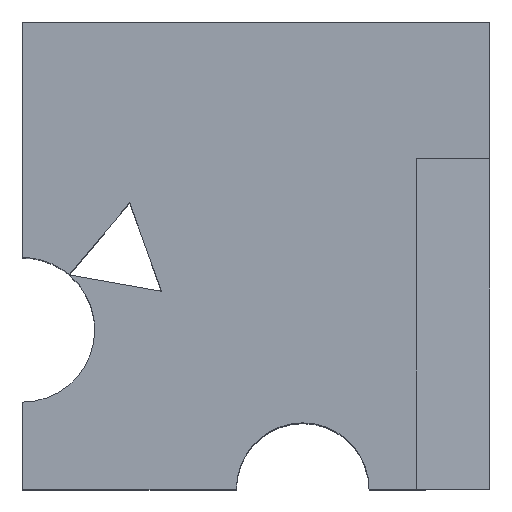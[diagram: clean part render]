
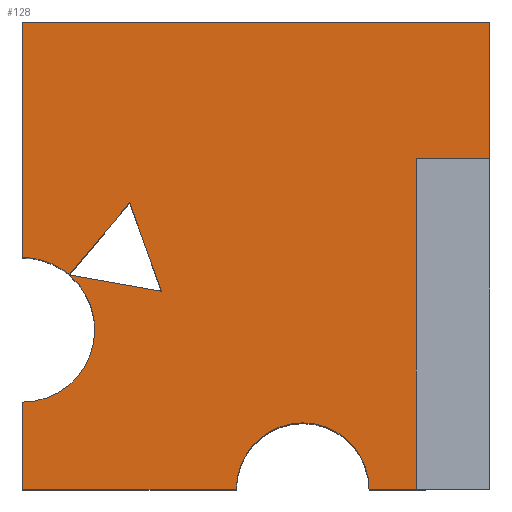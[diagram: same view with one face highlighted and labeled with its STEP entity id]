
A CAD part, top view. The second image highlights one B-rep face of the part: STEP entity #128.
In plain terms, the highlighted planar face has unit normal (0, 0, 1).
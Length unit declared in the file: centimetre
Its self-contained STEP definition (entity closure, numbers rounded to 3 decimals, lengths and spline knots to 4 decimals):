
#8 = EDGE_CURVE ( 'NONE', #1288, #469, #485, .T. ) ;
#16 = EDGE_CURVE ( 'NONE', #1253, #959, #1244, .T. ) ;
#27 = VECTOR ( 'NONE', #382, 100. ) ;
#30 = EDGE_CURVE ( 'NONE', #950, #74, #93, .T. ) ;
#42 = VECTOR ( 'NONE', #1226, 100. ) ;
#44 = CARTESIAN_POINT ( 'NONE',  ( 843.4626, 707.4613, 1000. ) ) ;
#49 = CARTESIAN_POINT ( 'NONE',  ( 843.4626, 707.4613, 1000. ) ) ;
#65 = ORIENTED_EDGE ( 'NONE', *, *, #1326, .T. ) ;
#74 = VERTEX_POINT ( 'NONE', #504 ) ;
#82 = ORIENTED_EDGE ( 'NONE', *, *, #16, .F. ) ;
#84 = VECTOR ( 'NONE', #642, 100. ) ;
#93 = LINE ( 'NONE', #602, #283 ) ;
#98 = VECTOR ( 'NONE', #684, 100. ) ;
#99 = CARTESIAN_POINT ( 'NONE',  ( 229.5462, 612.8353, 1000. ) ) ;
#128 = ADVANCED_FACE ( 'NONE', ( #304 ), #512, .T. ) ;
#149 = DIRECTION ( 'NONE',  ( 0., 0., -1. ) ) ;
#158 = ORIENTED_EDGE ( 'NONE', *, *, #1021, .T. ) ;
#181 = DIRECTION ( 'NONE',  ( 1., 0., 0. ) ) ;
#198 = EDGE_CURVE ( 'NONE', #561, #1089, #579, .T. ) ;
#218 = AXIS2_PLACEMENT_3D ( 'NONE', #384, #690, #181 ) ;
#225 = EDGE_CURVE ( 'NONE', #1196, #561, #326, .T. ) ;
#230 = CARTESIAN_POINT ( 'NONE',  ( 0., 0., 1000. ) ) ;
#242 = DIRECTION ( 'NONE',  ( -1., 0., 0. ) ) ;
#245 = CARTESIAN_POINT ( 'NONE',  ( 0., 1000., 1000. ) ) ;
#269 = ORIENTED_EDGE ( 'NONE', *, *, #628, .T. ) ;
#277 = LINE ( 'NONE', #245, #98 ) ;
#283 = VECTOR ( 'NONE', #1008, 100. ) ;
#292 = DIRECTION ( 'NONE',  ( -1., 0., 0. ) ) ;
#303 = CARTESIAN_POINT ( 'NONE',  ( 0., 495.9981, 1000. ) ) ;
#304 = FACE_OUTER_BOUND ( 'NONE', #1183, .T. ) ;
#326 = CIRCLE ( 'NONE', #330, 154.8575 ) ;
#330 = AXIS2_PLACEMENT_3D ( 'NONE', #997, #594, #292 ) ;
#362 = CARTESIAN_POINT ( 'NONE',  ( 0., 1000., 1000. ) ) ;
#378 = VECTOR ( 'NONE', #1191, 100. ) ;
#382 = DIRECTION ( 'NONE',  ( 0., -1., 0. ) ) ;
#384 = CARTESIAN_POINT ( 'NONE',  ( 600.0275, 0., 1000. ) ) ;
#389 = CARTESIAN_POINT ( 'NONE',  ( 843.4626, 707.4613, 1000. ) ) ;
#392 = EDGE_CURVE ( 'NONE', #1089, #959, #1331, .T. ) ;
#415 = CARTESIAN_POINT ( 'NONE',  ( 1000., 1000., 1000. ) ) ;
#422 = VECTOR ( 'NONE', #531, 100. ) ;
#435 = CARTESIAN_POINT ( 'NONE',  ( 100.138, 459.2644, 1000. ) ) ;
#440 = AXIS2_PLACEMENT_3D ( 'NONE', #558, #149, #242 ) ;
#466 = ORIENTED_EDGE ( 'NONE', *, *, #641, .T. ) ;
#469 = VERTEX_POINT ( 'NONE', #44 ) ;
#481 = CARTESIAN_POINT ( 'NONE',  ( 458.0583, 0., 1000. ) ) ;
#485 = LINE ( 'NONE', #49, #799 ) ;
#504 = CARTESIAN_POINT ( 'NONE',  ( 0., 1000., 1000. ) ) ;
#511 = DIRECTION ( 'NONE',  ( 0., 1., 0. ) ) ;
#512 = PLANE ( 'NONE',  #718 ) ;
#514 = CARTESIAN_POINT ( 'NONE',  ( 0., 0., 1000. ) ) ;
#531 = DIRECTION ( 'NONE',  ( 0.644, 0.765, 0. ) ) ;
#546 = LINE ( 'NONE', #1273, #84 ) ;
#548 = EDGE_CURVE ( 'NONE', #1285, #1196, #546, .T. ) ;
#558 = CARTESIAN_POINT ( 'NONE',  ( 0., 341.1407, 1000. ) ) ;
#561 = VERTEX_POINT ( 'NONE', #656 ) ;
#567 = VECTOR ( 'NONE', #511, 100. ) ;
#569 = VERTEX_POINT ( 'NONE', #750 ) ;
#574 = CARTESIAN_POINT ( 'NONE',  ( 741.9968, 0., 1000. ) ) ;
#576 = ORIENTED_EDGE ( 'NONE', *, *, #225, .T. ) ;
#579 = LINE ( 'NONE', #362, #951 ) ;
#585 = VERTEX_POINT ( 'NONE', #1155 ) ;
#594 = DIRECTION ( 'NONE',  ( 0., 0., -1. ) ) ;
#600 = ORIENTED_EDGE ( 'NONE', *, *, #1160, .T. ) ;
#602 = CARTESIAN_POINT ( 'NONE',  ( 0., 1000., 1000. ) ) ;
#628 = EDGE_CURVE ( 'NONE', #676, #585, #917, .T. ) ;
#641 = EDGE_CURVE ( 'NONE', #1288, #950, #1222, .T. ) ;
#642 = DIRECTION ( 'NONE',  ( -0.984, 0.176, 0. ) ) ;
#649 = ORIENTED_EDGE ( 'NONE', *, *, #8, .F. ) ;
#653 = CARTESIAN_POINT ( 'NONE',  ( 0., 0., 1000. ) ) ;
#656 = CARTESIAN_POINT ( 'NONE',  ( 0., 186.2832, 1000. ) ) ;
#662 = VERTEX_POINT ( 'NONE', #303 ) ;
#676 = VERTEX_POINT ( 'NONE', #435 ) ;
#684 = DIRECTION ( 'NONE',  ( 0., -1., 0. ) ) ;
#688 = DIRECTION ( 'NONE',  ( 0., -1., 0. ) ) ;
#689 = LINE ( 'NONE', #780, #378 ) ;
#690 = DIRECTION ( 'NONE',  ( 0., 0., 1. ) ) ;
#700 = ORIENTED_EDGE ( 'NONE', *, *, #1301, .F. ) ;
#718 = AXIS2_PLACEMENT_3D ( 'NONE', #918, #1123, #1329 ) ;
#750 = CARTESIAN_POINT ( 'NONE',  ( 843.4626, 0., 1000. ) ) ;
#780 = CARTESIAN_POINT ( 'NONE',  ( 298.0158, 423.4886, 1000. ) ) ;
#799 = VECTOR ( 'NONE', #891, 100. ) ;
#827 = VECTOR ( 'NONE', #1152, 100. ) ;
#842 = LINE ( 'NONE', #230, #827 ) ;
#856 = CARTESIAN_POINT ( 'NONE',  ( 100.8184, 458.6842, 1000. ) ) ;
#880 = CARTESIAN_POINT ( 'NONE',  ( 1000., 1000., 1000. ) ) ;
#883 = CARTESIAN_POINT ( 'NONE',  ( 298.0158, 423.4886, 1000. ) ) ;
#891 = DIRECTION ( 'NONE',  ( -1., 0., 0. ) ) ;
#917 = LINE ( 'NONE', #99, #422 ) ;
#918 = CARTESIAN_POINT ( 'NONE',  ( 0., 0., 1000. ) ) ;
#950 = VERTEX_POINT ( 'NONE', #880 ) ;
#951 = VECTOR ( 'NONE', #688, 100. ) ;
#959 = VERTEX_POINT ( 'NONE', #481 ) ;
#986 = ORIENTED_EDGE ( 'NONE', *, *, #548, .T. ) ;
#993 = ORIENTED_EDGE ( 'NONE', *, *, #392, .T. ) ;
#997 = CARTESIAN_POINT ( 'NONE',  ( 0., 341.1407, 1000. ) ) ;
#998 = EDGE_CURVE ( 'NONE', #74, #662, #277, .T. ) ;
#1008 = DIRECTION ( 'NONE',  ( -1., 0., 0. ) ) ;
#1021 = EDGE_CURVE ( 'NONE', #662, #676, #1081, .T. ) ;
#1081 = CIRCLE ( 'NONE', #440, 154.8575 ) ;
#1089 = VERTEX_POINT ( 'NONE', #653 ) ;
#1123 = DIRECTION ( 'NONE',  ( 0., 0., 1. ) ) ;
#1152 = DIRECTION ( 'NONE',  ( 1., 0., 0. ) ) ;
#1155 = CARTESIAN_POINT ( 'NONE',  ( 229.5462, 612.8353, 1000. ) ) ;
#1160 = EDGE_CURVE ( 'NONE', #1253, #569, #842, .T. ) ;
#1183 = EDGE_LOOP ( 'NONE', ( #158, #269, #65, #986, #576, #1286, #993, #82, #600, #700, #649, #466, #1282, #1275 ) ) ;
#1191 = DIRECTION ( 'NONE',  ( 0.34, -0.94, 0. ) ) ;
#1196 = VERTEX_POINT ( 'NONE', #856 ) ;
#1222 = LINE ( 'NONE', #415, #567 ) ;
#1226 = DIRECTION ( 'NONE',  ( 1., 0., 0. ) ) ;
#1244 = CIRCLE ( 'NONE', #218, 141.9692 ) ;
#1253 = VERTEX_POINT ( 'NONE', #574 ) ;
#1273 = CARTESIAN_POINT ( 'NONE',  ( 99.8019, 458.8656, 1000. ) ) ;
#1275 = ORIENTED_EDGE ( 'NONE', *, *, #998, .T. ) ;
#1282 = ORIENTED_EDGE ( 'NONE', *, *, #30, .T. ) ;
#1285 = VERTEX_POINT ( 'NONE', #883 ) ;
#1286 = ORIENTED_EDGE ( 'NONE', *, *, #198, .T. ) ;
#1288 = VERTEX_POINT ( 'NONE', #1315 ) ;
#1290 = LINE ( 'NONE', #389, #27 ) ;
#1301 = EDGE_CURVE ( 'NONE', #469, #569, #1290, .T. ) ;
#1315 = CARTESIAN_POINT ( 'NONE',  ( 1000., 707.4613, 1000. ) ) ;
#1326 = EDGE_CURVE ( 'NONE', #585, #1285, #689, .T. ) ;
#1329 = DIRECTION ( 'NONE',  ( 1., 0., 0. ) ) ;
#1331 = LINE ( 'NONE', #514, #42 ) ;
